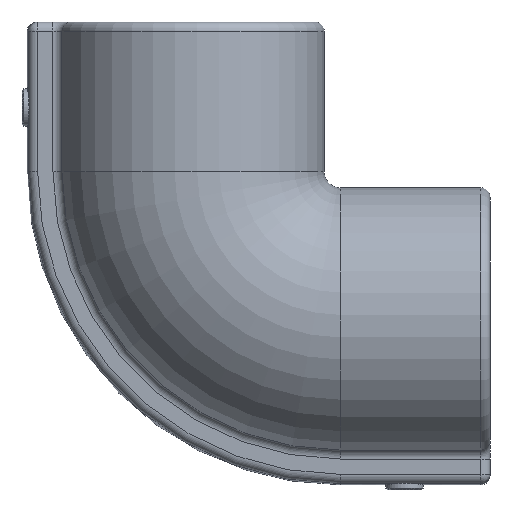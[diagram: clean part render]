
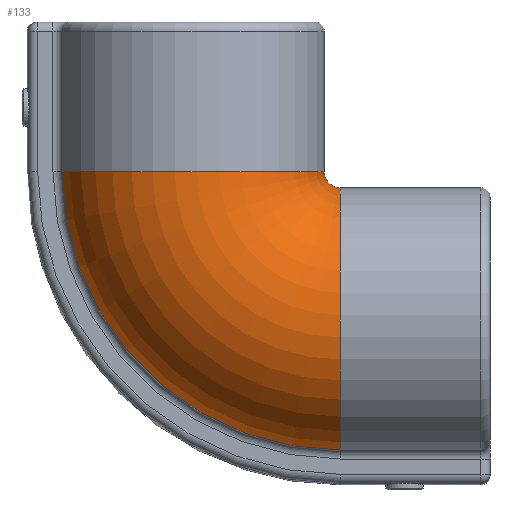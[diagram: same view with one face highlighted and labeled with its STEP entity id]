
A CAD part, front view. The second image highlights one B-rep face of the part: STEP entity #133.
In plain terms, the highlighted toroidal (fillet/blend) face has major radius 38.1 mm and minor radius 33.972 mm.
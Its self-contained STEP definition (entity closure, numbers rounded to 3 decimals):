
#79=TOROIDAL_SURFACE('',#1526,38.1,33.973);
#133=ADVANCED_FACE('',(#220),#79,.T.);
#220=FACE_OUTER_BOUND('',#308,.F.);
#308=EDGE_LOOP('',(#547,#548,#549,#550));
#547=ORIENTED_EDGE('',*,*,#1138,.F.);
#548=ORIENTED_EDGE('',*,*,#1146,.F.);
#549=ORIENTED_EDGE('',*,*,#1111,.T.);
#550=ORIENTED_EDGE('',*,*,#1087,.T.);
#990=CIRCLE('',#1420,4.128);
#1002=CIRCLE('',#1432,33.973);
#1014=CIRCLE('',#1444,33.973);
#1018=CIRCLE('',#1448,70.887);
#1087=EDGE_CURVE('',#1356,#1357,#990,.T.);
#1111=EDGE_CURVE('',#1341,#1356,#1002,.T.);
#1138=EDGE_CURVE('',#1324,#1357,#1014,.T.);
#1146=EDGE_CURVE('',#1341,#1324,#1018,.T.);
#1324=VERTEX_POINT('',#2044);
#1341=VERTEX_POINT('',#2061);
#1356=VERTEX_POINT('',#2076);
#1357=VERTEX_POINT('',#2077);
#1420=AXIS2_PLACEMENT_3D('',#2195,#1599,#1600);
#1432=AXIS2_PLACEMENT_3D('',#2263,#1632,#1633);
#1444=AXIS2_PLACEMENT_3D('',#2304,#1669,#1670);
#1448=AXIS2_PLACEMENT_3D('',#2333,#1679,#1680);
#1526=AXIS2_PLACEMENT_3D('',#2639,#1853,#1854);
#1599=DIRECTION('',(0.,-1.,0.));
#1600=DIRECTION('',(-1.,0.,0.));
#1632=DIRECTION('',(0.,0.,1.));
#1633=DIRECTION('',(-0.965,-0.262,0.));
#1669=DIRECTION('',(-1.,0.,0.));
#1670=DIRECTION('',(0.,-0.262,-0.965));
#1679=DIRECTION('',(0.,-1.,0.));
#1680=DIRECTION('',(-1.,0.,0.));
#1853=DIRECTION('',(0.,-1.,0.));
#1854=DIRECTION('',(-0.996,0.,0.087));
#2044=CARTESIAN_POINT('',(38.1,-8.897,-108.987));
#2061=CARTESIAN_POINT('',(-32.787,-8.897,-38.1));
#2076=CARTESIAN_POINT('',(33.973,0.,-38.1));
#2077=CARTESIAN_POINT('',(38.1,0.,-42.228));
#2195=CARTESIAN_POINT('',(38.1,0.,-38.1));
#2263=CARTESIAN_POINT('',(0.,0.,-38.1));
#2304=CARTESIAN_POINT('',(38.1,0.,-76.2));
#2333=CARTESIAN_POINT('',(38.1,-8.897,-38.1));
#2639=CARTESIAN_POINT('',(38.1,0.,-38.1));
